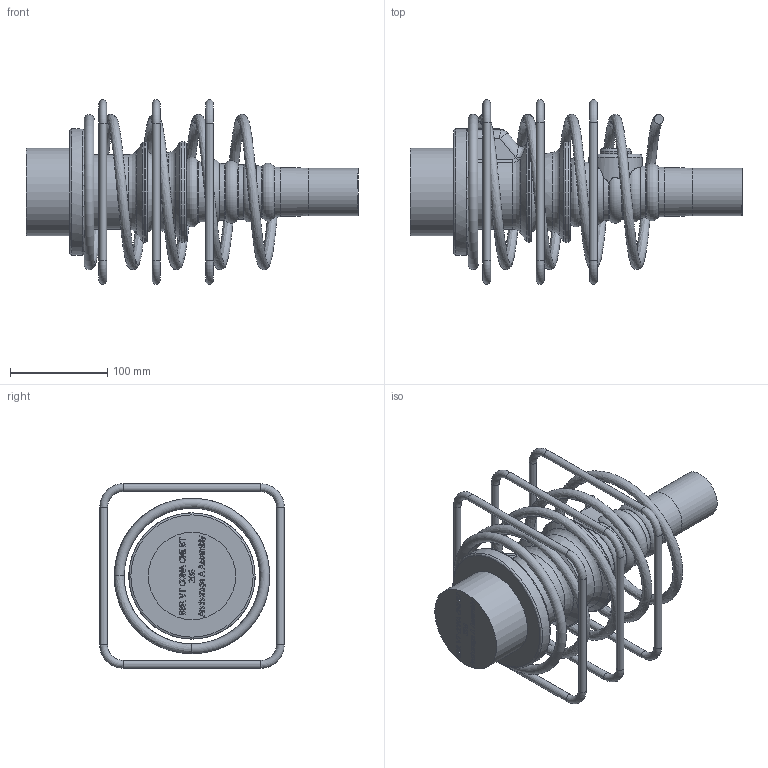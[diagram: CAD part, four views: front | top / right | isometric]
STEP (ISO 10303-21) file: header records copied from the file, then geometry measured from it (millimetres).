
FILE_DESCRIPTION(/* description */ (''),/* implementation_level */ '2;1');
FILE_NAME(/* name */ 'Z:\04 Publications\05 Give-out\BBR\6_3D_Models\BBR VT CONA CMI\BBR VT CONA CMI BT\00206\BBR VT CONA CMI BT 206_Anchorage A Assembly_CS-34,28.stp',/* time_stamp */ '2017-05-04T09:40:39+02:00',/* author */ ('IP'),/* organization */ (''),/* preprocessor_version */ 'ST-DEVELOPER v16.1',/* originating_system */ 'Autodesk Inventor 2016',/* authorisation */ '');
FILE_SCHEMA (('AUTOMOTIVE_DESIGN { 1 0 10303 214 3 1 1 }'));
Length unit declared in the file: millimetre
Products named in the file (1): BBR VT CONA CMI BT 206_Anchorage A Assembly_CS-34,28
Bounding box: 342 x 190 x 190 mm (x, y, z)
Volume: 1868313.9 mm3; surface area: 243563 mm2
Topology: 5 solids, 5 shells, 718 faces, 1881 edges, 1221 vertices
Faces by surface type: bspline 322, plane 314, torus 45, cylinder 28, cone 9
Full cylindrical faces by diameter (mm): 8 x12, 32 x1, 49 x1, 55 x1, 90 x1, 104 x2, 130 x1
Entity records: 26942 total; most frequent: CARTESIAN_POINT 10915, ORIENTED_EDGE 3630, DIRECTION 2105, EDGE_CURVE 1815, VERTEX_POINT 1214, LINE 1037, VECTOR 1037, EDGE_LOOP 831
